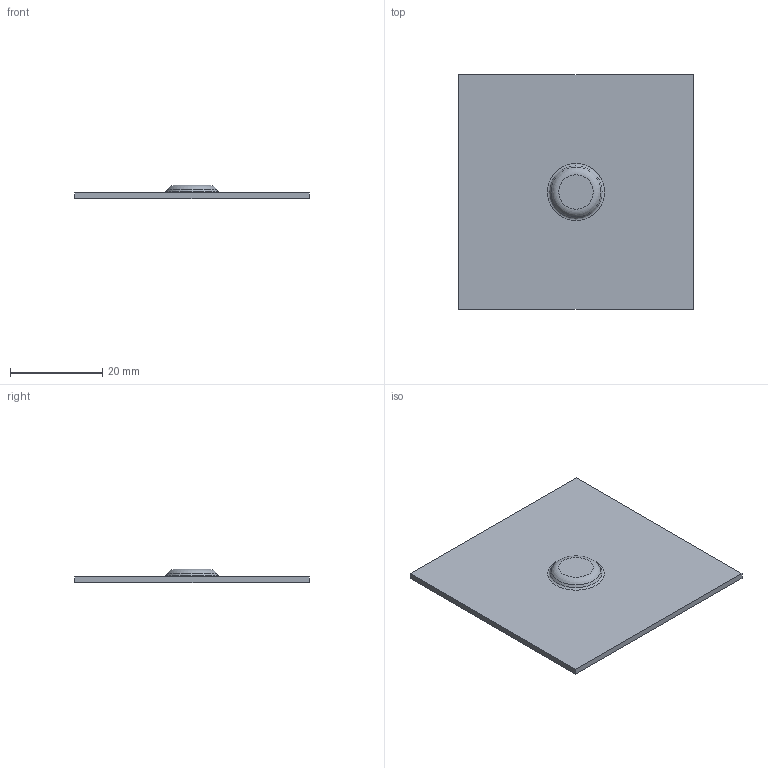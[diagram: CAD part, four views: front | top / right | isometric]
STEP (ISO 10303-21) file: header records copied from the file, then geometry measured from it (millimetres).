
FILE_DESCRIPTION((''),'1');
FILE_NAME('C:/Users/robertnolte/Desktop/WT#758331-20.stp','2012-03-30T00:53:05',(''),(''),'Spatial Interop R21 SP3','Kubotek KeyCreator 2011 V10.5.0 (24766)',' ');
FILE_SCHEMA(('CONFIG_CONTROL_DESIGN'));
Length unit declared in the file: inch
Products named in the file (1): 1
Bounding box: 50.8 x 50.8 x 2.92 mm (x, y, z)
Volume: 3303.7 mm3; surface area: 5460.7 mm2
Topology: 1 solids, 1 shells, 14 faces, 27 edges, 17 vertices
Faces by surface type: plane 8, torus 4, cone 2
Entity records: 360 total; most frequent: DIRECTION 58, CARTESIAN_POINT 51, ORIENTED_EDGE 40, AXIS2_PLACEMENT_3D 23, EDGE_LOOP 22, EDGE_CURVE 20, VERTEX_POINT 16, ADVANCED_FACE 14
